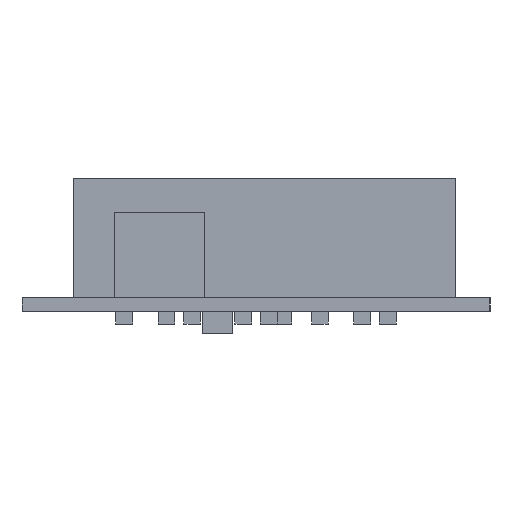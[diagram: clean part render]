
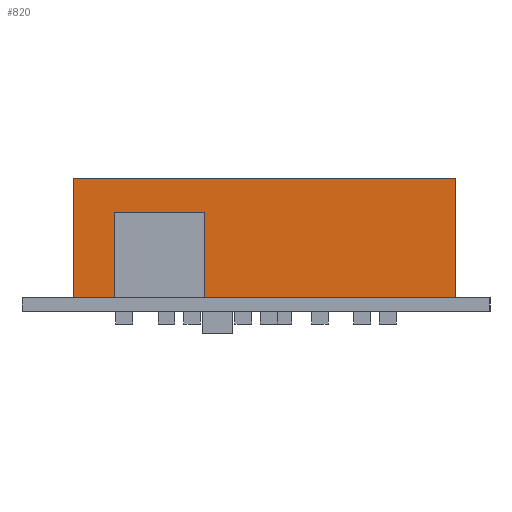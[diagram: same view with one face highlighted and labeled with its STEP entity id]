
A CAD part, left-side view. The second image highlights one B-rep face of the part: STEP entity #820.
In plain terms, the highlighted planar face has unit normal (-1, 0, 0).
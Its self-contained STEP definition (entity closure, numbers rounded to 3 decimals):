
#820 = ADVANCED_FACE('',(#821),#835,.F.);
#821 = FACE_BOUND('',#822,.F.);
#822 = EDGE_LOOP('',(#823,#858,#886,#914));
#823 = ORIENTED_EDGE('',*,*,#824,.F.);
#824 = EDGE_CURVE('',#825,#827,#829,.T.);
#825 = VERTEX_POINT('',#826);
#826 = CARTESIAN_POINT('',(37.62,4.,1.6));
#827 = VERTEX_POINT('',#828);
#828 = CARTESIAN_POINT('',(37.62,4.,15.6));
#829 = SURFACE_CURVE('',#830,(#834,#846),.PCURVE_S1.);
#830 = LINE('',#831,#832);
#831 = CARTESIAN_POINT('',(37.62,4.,1.6));
#832 = VECTOR('',#833,1.);
#833 = DIRECTION('',(0.,0.,1.));
#834 = PCURVE('',#835,#840);
#835 = PLANE('',#836);
#836 = AXIS2_PLACEMENT_3D('',#837,#838,#839);
#837 = CARTESIAN_POINT('',(37.62,4.,1.6));
#838 = DIRECTION('',(1.,0.,0.));
#839 = DIRECTION('',(0.,0.,1.));
#840 = DEFINITIONAL_REPRESENTATION('',(#841),#845);
#841 = LINE('',#842,#843);
#842 = CARTESIAN_POINT('',(0.,0.));
#843 = VECTOR('',#844,1.);
#844 = DIRECTION('',(1.,0.));
#845 = ( GEOMETRIC_REPRESENTATION_CONTEXT(2) 
PARAMETRIC_REPRESENTATION_CONTEXT() REPRESENTATION_CONTEXT('2D SPACE',''
  ) );
#846 = PCURVE('',#847,#852);
#847 = PLANE('',#848);
#848 = AXIS2_PLACEMENT_3D('',#849,#850,#851);
#849 = CARTESIAN_POINT('',(37.62,4.,1.6));
#850 = DIRECTION('',(0.,1.,0.));
#851 = DIRECTION('',(0.,0.,1.));
#852 = DEFINITIONAL_REPRESENTATION('',(#853),#857);
#853 = LINE('',#854,#855);
#854 = CARTESIAN_POINT('',(0.,0.));
#855 = VECTOR('',#856,1.);
#856 = DIRECTION('',(1.,0.));
#857 = ( GEOMETRIC_REPRESENTATION_CONTEXT(2) 
PARAMETRIC_REPRESENTATION_CONTEXT() REPRESENTATION_CONTEXT('2D SPACE',''
  ) );
#858 = ORIENTED_EDGE('',*,*,#859,.T.);
#859 = EDGE_CURVE('',#825,#860,#862,.T.);
#860 = VERTEX_POINT('',#861);
#861 = CARTESIAN_POINT('',(37.62,49.,1.6));
#862 = SURFACE_CURVE('',#863,(#867,#874),.PCURVE_S1.);
#863 = LINE('',#864,#865);
#864 = CARTESIAN_POINT('',(37.62,4.,1.6));
#865 = VECTOR('',#866,1.);
#866 = DIRECTION('',(0.,1.,0.));
#867 = PCURVE('',#835,#868);
#868 = DEFINITIONAL_REPRESENTATION('',(#869),#873);
#869 = LINE('',#870,#871);
#870 = CARTESIAN_POINT('',(0.,0.));
#871 = VECTOR('',#872,1.);
#872 = DIRECTION('',(0.,-1.));
#873 = ( GEOMETRIC_REPRESENTATION_CONTEXT(2) 
PARAMETRIC_REPRESENTATION_CONTEXT() REPRESENTATION_CONTEXT('2D SPACE',''
  ) );
#874 = PCURVE('',#875,#880);
#875 = PLANE('',#876);
#876 = AXIS2_PLACEMENT_3D('',#877,#878,#879);
#877 = CARTESIAN_POINT('',(37.62,4.,1.6));
#878 = DIRECTION('',(0.,0.,1.));
#879 = DIRECTION('',(1.,0.,0.));
#880 = DEFINITIONAL_REPRESENTATION('',(#881),#885);
#881 = LINE('',#882,#883);
#882 = CARTESIAN_POINT('',(0.,0.));
#883 = VECTOR('',#884,1.);
#884 = DIRECTION('',(0.,1.));
#885 = ( GEOMETRIC_REPRESENTATION_CONTEXT(2) 
PARAMETRIC_REPRESENTATION_CONTEXT() REPRESENTATION_CONTEXT('2D SPACE',''
  ) );
#886 = ORIENTED_EDGE('',*,*,#887,.T.);
#887 = EDGE_CURVE('',#860,#888,#890,.T.);
#888 = VERTEX_POINT('',#889);
#889 = CARTESIAN_POINT('',(37.62,49.,15.6));
#890 = SURFACE_CURVE('',#891,(#895,#902),.PCURVE_S1.);
#891 = LINE('',#892,#893);
#892 = CARTESIAN_POINT('',(37.62,49.,1.6));
#893 = VECTOR('',#894,1.);
#894 = DIRECTION('',(0.,0.,1.));
#895 = PCURVE('',#835,#896);
#896 = DEFINITIONAL_REPRESENTATION('',(#897),#901);
#897 = LINE('',#898,#899);
#898 = CARTESIAN_POINT('',(0.,-45.));
#899 = VECTOR('',#900,1.);
#900 = DIRECTION('',(1.,0.));
#901 = ( GEOMETRIC_REPRESENTATION_CONTEXT(2) 
PARAMETRIC_REPRESENTATION_CONTEXT() REPRESENTATION_CONTEXT('2D SPACE',''
  ) );
#902 = PCURVE('',#903,#908);
#903 = PLANE('',#904);
#904 = AXIS2_PLACEMENT_3D('',#905,#906,#907);
#905 = CARTESIAN_POINT('',(37.62,49.,1.6));
#906 = DIRECTION('',(0.,1.,0.));
#907 = DIRECTION('',(0.,0.,1.));
#908 = DEFINITIONAL_REPRESENTATION('',(#909),#913);
#909 = LINE('',#910,#911);
#910 = CARTESIAN_POINT('',(0.,0.));
#911 = VECTOR('',#912,1.);
#912 = DIRECTION('',(1.,0.));
#913 = ( GEOMETRIC_REPRESENTATION_CONTEXT(2) 
PARAMETRIC_REPRESENTATION_CONTEXT() REPRESENTATION_CONTEXT('2D SPACE',''
  ) );
#914 = ORIENTED_EDGE('',*,*,#915,.F.);
#915 = EDGE_CURVE('',#827,#888,#916,.T.);
#916 = SURFACE_CURVE('',#917,(#921,#928),.PCURVE_S1.);
#917 = LINE('',#918,#919);
#918 = CARTESIAN_POINT('',(37.62,4.,15.6));
#919 = VECTOR('',#920,1.);
#920 = DIRECTION('',(0.,1.,0.));
#921 = PCURVE('',#835,#922);
#922 = DEFINITIONAL_REPRESENTATION('',(#923),#927);
#923 = LINE('',#924,#925);
#924 = CARTESIAN_POINT('',(14.,0.));
#925 = VECTOR('',#926,1.);
#926 = DIRECTION('',(0.,-1.));
#927 = ( GEOMETRIC_REPRESENTATION_CONTEXT(2) 
PARAMETRIC_REPRESENTATION_CONTEXT() REPRESENTATION_CONTEXT('2D SPACE',''
  ) );
#928 = PCURVE('',#929,#934);
#929 = PLANE('',#930);
#930 = AXIS2_PLACEMENT_3D('',#931,#932,#933);
#931 = CARTESIAN_POINT('',(37.62,4.,15.6));
#932 = DIRECTION('',(0.,0.,1.));
#933 = DIRECTION('',(1.,0.,0.));
#934 = DEFINITIONAL_REPRESENTATION('',(#935),#939);
#935 = LINE('',#936,#937);
#936 = CARTESIAN_POINT('',(0.,0.));
#937 = VECTOR('',#938,1.);
#938 = DIRECTION('',(0.,1.));
#939 = ( GEOMETRIC_REPRESENTATION_CONTEXT(2) 
PARAMETRIC_REPRESENTATION_CONTEXT() REPRESENTATION_CONTEXT('2D SPACE',''
  ) );
